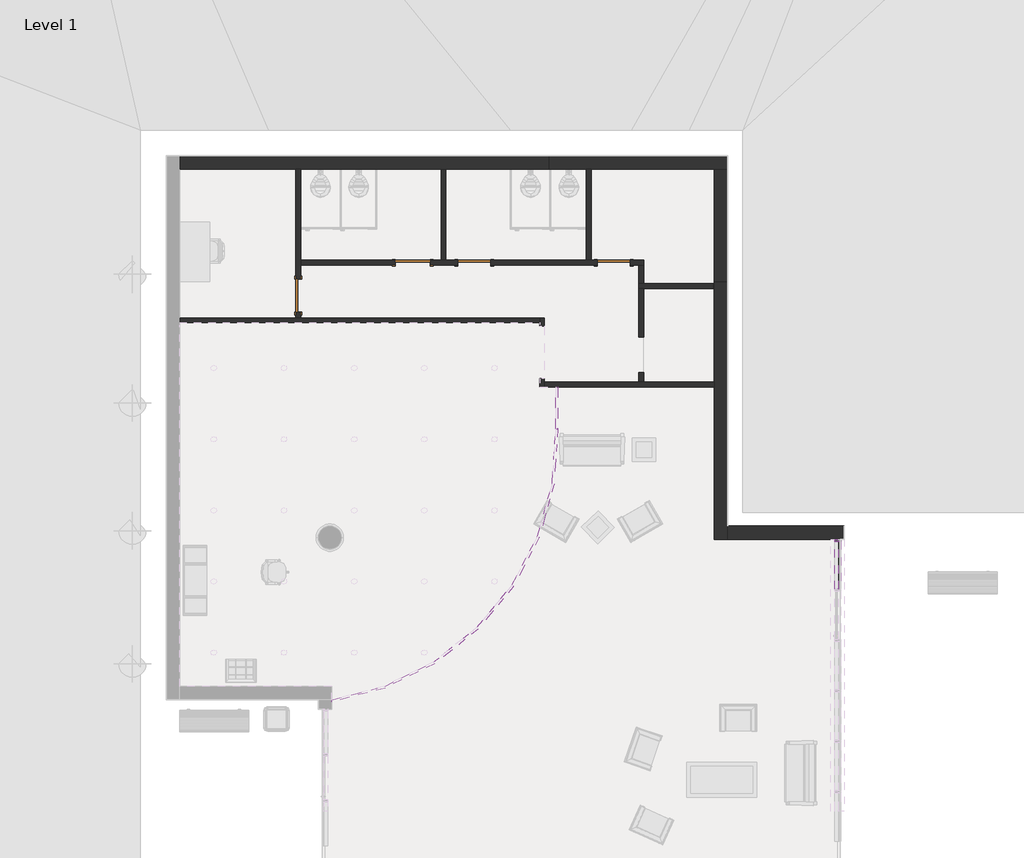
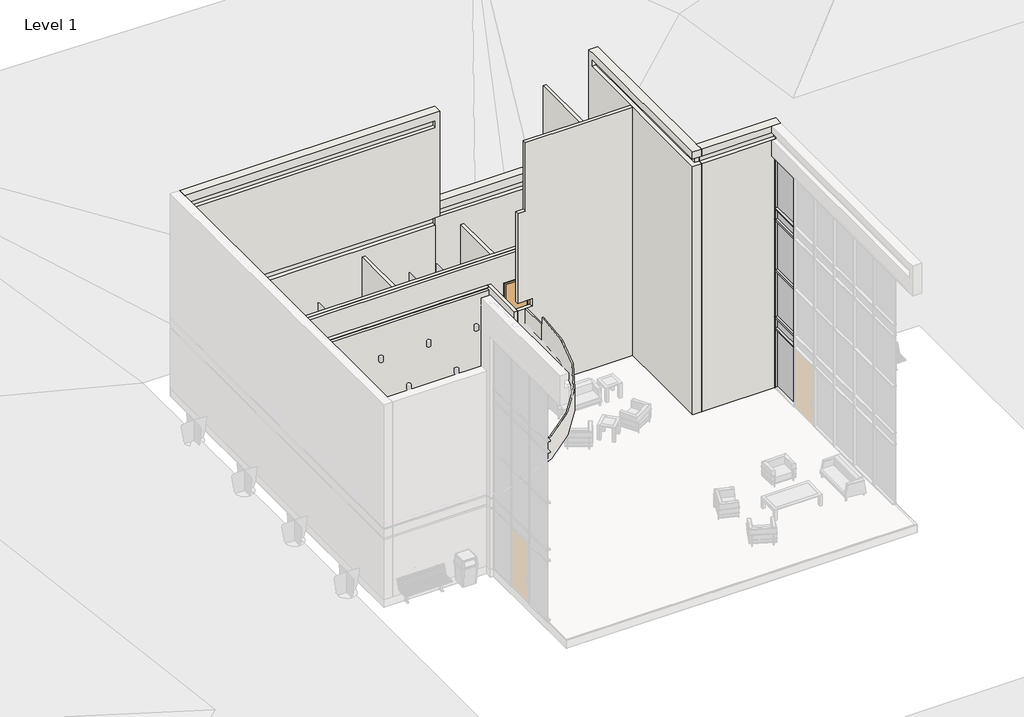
# One storey, part 5 of 6: 17 walls, 12 members, 6 plates, 4 doors.
"""IFC4 building model written with IfcOpenShell, lengths in millimetres."""

from ifc_helpers import new_model, si_unit, frame, origin, place, context, project, spatial, polyline, circle_curve, outline, extrude, faceted_brep, transform, mapped, element, save
from ifc_brep_helpers import plane_surface, cylinder_surface, revolved_surface, advanced_brep
from components import m_single_flush_0860_x_2030mm_8480546f, m_single_flush_0920_x_2100_fc213812, rectangular_mullion_50_x_150mm_bd4d183d, rectangular_mullion_50_x_150mm_66ba6a4f, rectangular_mullion_50_x_150mm_4a8db126, rectangular_mullion_50_x_150mm_686aa266, rectangular_mullion_50_x_150mm_fd087c06, rectangular_mullion_50_x_150mm_116e1582, rectangular_mullion_50_x_150mm_f0eb3f16, system_panel_glazed_0d527a17, system_panel_glazed_0d1daa48, system_panel_glazed_b20b1453, system_panel_glazed_98e6f03d, system_panel_glazed_89aeea5a

model = new_model("IFC4")

# Units and contexts
model_context = context("Model", 3, world=origin())
ifc_project = project(units=[si_unit("LENGTHUNIT", "METRE", prefix="MILLI")], contexts=[model_context])

# Site, building, storey
site = spatial("IfcSite", under=ifc_project)
building = spatial("IfcBuilding", under=site)
storey = spatial("IfcBuildingStorey", under=building, Name="Level 1", Elevation=45720.0)

# Doors
placement = place(None, origin())
m_single_flush_0860_x_2030mm_shape = m_single_flush_0860_x_2030mm_8480546f(model_context)
element("IfcDoor", 1, ObjectType="M_Single-Flush : 0860 x 2030mm", at=placement, inside=storey, context=model_context, shape_type="MappedRepresentation", body=[
    mapped(m_single_flush_0860_x_2030mm_shape, transform((-2602.4563072, 8316.5251138, 45720.0), x_axis=(-1.0, 0.0, 0.0), y_axis=(0.0, -1.0, 0.0), z_axis=(0.0, 0.0, 1.0))),
])
element("IfcDoor", 2, ObjectType="M_Single-Flush : 0860 x 2030mm", at=placement, inside=storey, context=model_context, shape_type="MappedRepresentation", body=[
    mapped(m_single_flush_0860_x_2030mm_shape, transform((-6234.6563072, 8316.5251138, 45720.0), x_axis=(-1.0, 0.0, 0.0), y_axis=(0.0, -1.0, 0.0), z_axis=(0.0, 0.0, 1.0))),
])
element("IfcDoor", 3, ObjectType="M_Single-Flush : 0860 x 2030mm", at=placement, inside=storey, context=model_context, shape_type="MappedRepresentation", body=[
    mapped(m_single_flush_0860_x_2030mm_shape, transform((-10819.3563072, 7465.6251138, 45720.0), x_axis=(0.0, -1.0, 0.0), y_axis=(1.0, 0.0, 0.0), z_axis=(0.0, 0.0, 1.0))),
])
m_single_flush_0920_x_2100_shape = m_single_flush_0920_x_2100_fc213812(model_context)
element("IfcDoor", 4, ObjectType="M_Single-Flush : 0920 x 2100", at=placement, inside=storey, context=model_context, shape_type="MappedRepresentation", body=[
    mapped(m_single_flush_0920_x_2100_shape, transform((-7834.8563072, 8316.5251138, 45720.0), x_axis=(1.0, 0.0, 0.0), y_axis=(0.0, 1.0, 0.0), z_axis=(0.0, 0.0, 1.0))),
])

# Members
rectangular_mullion_50_x_150mm_shape = rectangular_mullion_50_x_150mm_bd4d183d(model_context)
element("IfcMember", 5, ObjectType="Rectangular Mullion : 50 x 150mm", at=placement, inside=storey, context=model_context, shape_type="MappedRepresentation", body=[
    mapped(rectangular_mullion_50_x_150mm_shape, transform((3237.9561928, 1049.5515027, 55168.8), x_axis=(0.0, 0.0, 1.0), y_axis=(1.0, 0.0, 0.0), z_axis=(0.0, 1.0, 0.0))),
])
rectangular_mullion_50_x_150mm_2_shape = rectangular_mullion_50_x_150mm_66ba6a4f(model_context)
element("IfcMember", 6, ObjectType="Rectangular Mullion : 50 x 150mm", at=placement, inside=storey, context=model_context, shape_type="MappedRepresentation", body=[
    mapped(rectangular_mullion_50_x_150mm_2_shape, transform((3237.9561928, 1049.5515027, 48158.4), x_axis=(0.0, 0.0, 1.0), y_axis=(1.0, 0.0, 0.0), z_axis=(0.0, 1.0, 0.0))),
])
element("IfcMember", 7, ObjectType="Rectangular Mullion : 50 x 150mm", at=placement, inside=storey, context=model_context, shape_type="MappedRepresentation", body=[
    mapped(rectangular_mullion_50_x_150mm_2_shape, transform((3237.9561928, 1049.5515027, 50520.0), x_axis=(0.0, 0.0, 1.0), y_axis=(1.0, 0.0, 0.0), z_axis=(0.0, 1.0, 0.0))),
])
element("IfcMember", 8, ObjectType="Rectangular Mullion : 50 x 150mm", at=placement, inside=storey, context=model_context, shape_type="MappedRepresentation", body=[
    mapped(rectangular_mullion_50_x_150mm_2_shape, transform((3237.9561928, 1049.5515027, 53035.2), x_axis=(0.0, 0.0, 1.0), y_axis=(1.0, 0.0, 0.0), z_axis=(0.0, 1.0, 0.0))),
])
element("IfcMember", 9, ObjectType="Rectangular Mullion : 50 x 150mm", at=placement, inside=storey, context=model_context, shape_type="MappedRepresentation", body=[
    mapped(rectangular_mullion_50_x_150mm_2_shape, transform((3237.9561928, 1049.5515027, 52578.0), x_axis=(0.0, 0.0, 1.0), y_axis=(1.0, 0.0, 0.0), z_axis=(0.0, 1.0, 0.0))),
])
element("IfcMember", 10, ObjectType="Rectangular Mullion : 50 x 150mm", at=placement, inside=storey, context=model_context, shape_type="MappedRepresentation", body=[
    mapped(rectangular_mullion_50_x_150mm_2_shape, transform((3237.9561928, 1049.5515027, 48615.6), x_axis=(0.0, 0.0, 1.0), y_axis=(1.0, 0.0, 0.0), z_axis=(0.0, 1.0, 0.0))),
])
rectangular_mullion_50_x_150mm_3_shape = rectangular_mullion_50_x_150mm_4a8db126(model_context)
element("IfcMember", 11, ObjectType="Rectangular Mullion : 50 x 150mm", at=placement, inside=storey, context=model_context, shape_type="MappedRepresentation", body=[
    mapped(rectangular_mullion_50_x_150mm_3_shape, transform((3237.9561928, 1099.5515027, 45720.0), x_axis=(0.0, 1.0, 0.0), y_axis=(1.0, 0.0, 0.0), z_axis=(0.0, 0.0, -1.0))),
])
rectangular_mullion_50_x_150mm_4_shape = rectangular_mullion_50_x_150mm_686aa266(model_context)
element("IfcMember", 12, ObjectType="Rectangular Mullion : 50 x 150mm", at=placement, inside=storey, context=model_context, shape_type="MappedRepresentation", body=[
    mapped(rectangular_mullion_50_x_150mm_4_shape, transform((3237.9561928, 1099.5515027, 48158.4), x_axis=(0.0, 1.0, 0.0), y_axis=(1.0, 0.0, 0.0), z_axis=(0.0, 0.0, -1.0))),
])
element("IfcMember", 13, ObjectType="Rectangular Mullion : 50 x 150mm", at=placement, inside=storey, context=model_context, shape_type="MappedRepresentation", body=[
    mapped(rectangular_mullion_50_x_150mm_4_shape, transform((3237.9561928, 1099.5515027, 52578.0), x_axis=(0.0, 1.0, 0.0), y_axis=(1.0, 0.0, 0.0), z_axis=(0.0, 0.0, -1.0))),
])
rectangular_mullion_50_x_150mm_5_shape = rectangular_mullion_50_x_150mm_fd087c06(model_context)
element("IfcMember", 14, ObjectType="Rectangular Mullion : 50 x 150mm", at=placement, inside=storey, context=model_context, shape_type="MappedRepresentation", body=[
    mapped(rectangular_mullion_50_x_150mm_5_shape, transform((3237.9561928, 1099.5515027, 50520.0), x_axis=(0.0, 1.0, 0.0), y_axis=(1.0, 0.0, 0.0), z_axis=(0.0, 0.0, -1.0))),
])
rectangular_mullion_50_x_150mm_6_shape = rectangular_mullion_50_x_150mm_116e1582(model_context)
element("IfcMember", 15, ObjectType="Rectangular Mullion : 50 x 150mm", at=placement, inside=storey, context=model_context, shape_type="MappedRepresentation", body=[
    mapped(rectangular_mullion_50_x_150mm_6_shape, transform((3237.9561928, 1099.5515027, 53035.2), x_axis=(0.0, 1.0, 0.0), y_axis=(1.0, 0.0, 0.0), z_axis=(0.0, 0.0, -1.0))),
])
rectangular_mullion_50_x_150mm_7_shape = rectangular_mullion_50_x_150mm_f0eb3f16(model_context)
element("IfcMember", 16, ObjectType="Rectangular Mullion : 50 x 150mm", at=placement, inside=storey, context=model_context, shape_type="MappedRepresentation", body=[
    mapped(rectangular_mullion_50_x_150mm_7_shape, transform((3237.9561928, 1099.5515027, 48615.6), x_axis=(0.0, 1.0, 0.0), y_axis=(1.0, 0.0, 0.0), z_axis=(0.0, 0.0, -1.0))),
])

# Plates
system_panel_glazed_shape = system_panel_glazed_0d527a17(model_context)
element("IfcPlate", 17, ObjectType="System Panel : Glazed", at=placement, inside=storey, context=model_context, shape_type="MappedRepresentation", body=[
    mapped(system_panel_glazed_shape, transform((3237.9561928, 429.2737249, 45770.0), x_axis=(0.0, 1.0, 0.0), y_axis=(-1.0, 0.0, 0.0), z_axis=(0.0, 0.0, 1.0))),
])
system_panel_glazed_2_shape = system_panel_glazed_0d1daa48(model_context)
element("IfcPlate", 18, ObjectType="System Panel : Glazed", at=placement, inside=storey, context=model_context, shape_type="MappedRepresentation", body=[
    mapped(system_panel_glazed_2_shape, transform((3237.9561928, 429.2737249, 48183.4), x_axis=(0.0, 1.0, 0.0), y_axis=(-1.0, 0.0, 0.0), z_axis=(0.0, 0.0, 1.0))),
])
element("IfcPlate", 19, ObjectType="System Panel : Glazed", at=placement, inside=storey, context=model_context, shape_type="MappedRepresentation", body=[
    mapped(system_panel_glazed_2_shape, transform((3237.9561928, 429.2737249, 52603.0), x_axis=(0.0, 1.0, 0.0), y_axis=(-1.0, 0.0, 0.0), z_axis=(0.0, 0.0, 1.0))),
])
system_panel_glazed_3_shape = system_panel_glazed_b20b1453(model_context)
element("IfcPlate", 20, ObjectType="System Panel : Glazed", at=placement, inside=storey, context=model_context, shape_type="MappedRepresentation", body=[
    mapped(system_panel_glazed_3_shape, transform((3237.9561928, 429.2737249, 50545.0), x_axis=(0.0, 1.0, 0.0), y_axis=(-1.0, 0.0, 0.0), z_axis=(0.0, 0.0, 1.0))),
])
system_panel_glazed_4_shape = system_panel_glazed_98e6f03d(model_context)
element("IfcPlate", 21, ObjectType="System Panel : Glazed", at=placement, inside=storey, context=model_context, shape_type="MappedRepresentation", body=[
    mapped(system_panel_glazed_4_shape, transform((3237.9561928, 429.2737249, 53060.2), x_axis=(0.0, 1.0, 0.0), y_axis=(-1.0, 0.0, 0.0), z_axis=(0.0, 0.0, 1.0))),
])
system_panel_glazed_5_shape = system_panel_glazed_89aeea5a(model_context)
element("IfcPlate", 22, ObjectType="System Panel : Glazed", at=placement, inside=storey, context=model_context, shape_type="MappedRepresentation", body=[
    mapped(system_panel_glazed_5_shape, transform((3237.9561928, 429.2737249, 48640.6), x_axis=(0.0, 1.0, 0.0), y_axis=(-1.0, 0.0, 0.0), z_axis=(0.0, 0.0, 1.0))),
])

# Walls
element("IfcWall", 23, ObjectType="Soffit - 13mm GWB & Metal Stud", at=placement, inside=storey, context=model_context, shape_type="AdvancedBrep", body=[
    advanced_brep(
    [(-9951.8313072, -3082.8723614, 49377.6), (-9951.8313072, -3134.4377572, 49377.6), (-4058.4805054, 3960.4251138, 49377.6), (-4109.5153553, 3960.4251138, 49377.6), (-9944.2046852, -3081.7248862, 49377.6), (-4059.5813072, 3988.7313839, 48463.2), (-9951.8313072, -3134.4377572, 48463.2), (-9951.8313072, -3082.8723614, 48463.2), (-4110.5813072, 3987.6859101, 48463.2), (-4059.5813072, 3988.7313839, 49077.6), (-4058.4805054, 3960.4251138, 49077.6), (-4109.5153553, 3960.4251138, 49077.6), (-4110.5813072, 3987.6859101, 49077.6)],
    [
        (0, 1),
        (1, 2, circle_curve(frame((-10969.3383655, 3705.8434908, 49377.6), z_axis=(0.0, 0.0, 1.0), x_axis=(1.0, 0.0, 0.0)), 6915.545399)),
        (2, 3),
        (3, 4, circle_curve(frame((-10969.3383655, 3705.8434908, 49377.6), z_axis=(0.0, 0.0, -1.0), x_axis=(1.0, 0.0, 0.0)), 6864.545399)),
        (4, 0, circle_curve(frame((-10969.3383655, 3705.8434908, 49377.6), z_axis=(0.0, 0.0, -1.0), x_axis=(1.0, 0.0, 0.0)), 6864.545399)),
        (5, 6, circle_curve(frame((-10969.3383655, 3705.8434908, 48463.2), z_axis=(0.0, 0.0, -1.0), x_axis=(1.0, 0.0, 0.0)), 6915.545399)),
        (6, 7),
        (7, 8, circle_curve(frame((-10969.3383655, 3705.8434908, 48463.2), z_axis=(0.0, 0.0, 1.0), x_axis=(1.0, 0.0, 0.0)), 6864.545399)),
        (8, 5),
        (5, 9),
        (9, 10, circle_curve(frame((-10969.3383655, 3705.8434908, 49077.6), z_axis=(0.0, 0.0, -1.0), x_axis=(1.0, 0.0, 0.0)), 6915.545399)),
        (10, 2),
        (1, 6),
        (7, 0),
        (3, 11),
        (11, 12, circle_curve(frame((-10969.3383655, 3705.8434908, 49077.6), z_axis=(0.0, 0.0, 1.0), x_axis=(1.0, 0.0, 0.0)), 6864.545399)),
        (12, 8),
        (11, 10),
        (9, 12),
    ],
    [
        plane_surface(frame((-4053.7929666, 3705.8434908, 49377.6), z_axis=(0.0, 0.0, 1.0), x_axis=(0.0, 1.0, 0.0))),
        plane_surface(frame((-4053.7929666, 3705.8434908, 48463.2), z_axis=(0.0, 0.0, -1.0), x_axis=(0.0, -1.0, 0.0))),
        cylinder_surface(frame((-10969.3383655, 3705.8434908, 48463.2), z_axis=(0.0, 0.0, 1.0), x_axis=(1.0, 0.0, 0.0)), 6915.545399),
        revolved_surface(polyline([(-4104.7929665, 3705.8434908, 48463.2), (-4104.7929665, 3705.8434908, 49377.6)]), (-10969.3383655, 3705.8434908, 48463.2), (0.0, 0.0, -1.0)),
        plane_surface(frame((-9951.8313072, -8228.3998862, 45720.0), z_axis=(-1.0, 0.0, 0.0), x_axis=(0.0, 1.0, 0.0))),
        plane_surface(frame((-14079.2313072, 10922.3501138, 49077.6), z_axis=(0.0, 0.0, 1.0), x_axis=(1.0, 0.0, 0.0))),
        plane_surface(frame((-3847.0563072, 3960.4251138, 49077.6), z_axis=(0.0, 1.0, 0.0), x_axis=(0.0, 0.0, 1.0))),
        plane_surface(frame((-4059.5813072, 3988.7313839, 45720.0), z_axis=(-0.02049518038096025, 0.9997899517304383, 0.0), x_axis=(-0.9997899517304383, -0.02049518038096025, 0.0))),
    ],
    [
        (0, [[1, 2, 3, 4, 5]]),
        (1, [[6, 7, 8, 9]]),
        (2, [[-6, 10, 11, 12, -2, 13]]),
        (3, [[-8, 14, -5, -4, 15, 16, 17]]),
        (4, [[-1, -14, -7, -13]]),
        (5, [[18, -11, 19, -16]]),
        (6, [[-18, -15, -3, -12]]),
        (7, [[-9, -17, -19, -10]]),
    ],
),
])
element("IfcWall", 24, ObjectType="Soffit - 13mm GWB & Metal Stud", at=placement, inside=storey, context=model_context, shape_type="SweptSolid", body=[
    extrude(outline(polyline([(-4110.5813072, 3987.6859101), (-4110.5813072, 5078.0001138), (-4059.5813072, 5078.0001138), (-4059.5813072, 3988.7313839), (-4110.5813072, 3987.6859101)])), frame((0.0, 0.0, 48463.2), z_axis=(0.0, 0.0, 1.0), x_axis=(1.0, 0.0, 0.0)), (0.0, 0.0, 1.0), 614.4),
])
element("IfcWall", 25, ObjectType="Exterior - Brick on Mtl. Stud w/ Soldier Course", at=placement, inside=storey, context=model_context, shape_type="Brep", body=[
    faceted_brep([(-4110.1063072, 10757.3501138, 53644.8), (-4463.0063072, 10757.3501138, 53644.8), (-13914.2313072, 10757.3501138, 53644.8), (-13914.2313072, 10757.3501138, 53335.2), (-4463.0063072, 10757.3501138, 53335.2), (-4280.7679666, 10757.3501138, 53335.2), (-4280.7679666, 10757.3501138, 53035.2), (-4463.0063072, 10757.3501138, 53035.2), (-13914.2313072, 10757.3501138, 53035.2), (-13914.2313072, 10757.3501138, 49377.6), (-4463.0063072, 10757.3501138, 49377.6), (-4286.5563072, 10757.3501138, 49377.6), (-4110.1063072, 10757.3501138, 49377.6), (-4110.1063072, 10757.3501138, 49677.6), (-4110.1063072, 10757.3501138, 49987.2), (-13914.2313072, 10757.3501138, 45720.0), (-10882.8813072, 10757.3501138, 45720.0), (-10755.8313072, 10757.3501138, 45720.0), (-7098.2813072, 10757.3501138, 45720.0), (-6971.2313072, 10757.3501138, 45720.0), (-4286.5563072, 10757.3501138, 45720.0), (-4286.5563072, 10757.3501138, 49077.6), (-10755.8313072, 10757.3501138, 49077.6), (-10882.8813072, 10757.3501138, 49077.6), (-13914.2313072, 10757.3501138, 49077.6), (-4286.5563072, 11107.3501138, 45720.0), (-13914.2313072, 11107.3501138, 45720.0), (-13914.2313072, 11107.3501138, 48170.0), (-4286.5563072, 11107.3501138, 48170.0), (-13914.2313072, 11107.3501138, 53644.8), (-4110.1063072, 11107.3501138, 53644.8), (-4110.1063072, 11107.3501138, 49987.2), (-4110.1063072, 11107.3501138, 49377.6), (-4286.5563072, 11107.3501138, 49377.6), (-4286.5563072, 11107.3501138, 48633.5), (-13914.2313072, 11107.3501138, 48633.5), (-13914.2313072, 11107.3501138, 48570.0), (-4286.5563072, 11107.3501138, 48570.0), (-4286.5563072, 11107.3501138, 48233.5), (-13914.2313072, 11107.3501138, 48233.5), (-13914.2313072, 11056.5501138, 48633.5), (-13914.2313072, 11056.5501138, 48570.0), (-13914.2313072, 11056.5501138, 48233.5), (-13914.2313072, 11056.5501138, 48170.0), (-13914.2313072, 10922.3501138, 49077.6), (-13914.2313072, 10922.3501138, 49377.6), (-13914.2313072, 10922.3501138, 53035.2), (-13914.2313072, 10922.3501138, 53335.2), (-4286.5563072, 10922.3501138, 49077.6), (-4286.5563072, 10922.3501138, 49377.6), (-4280.7679666, 10922.3501138, 53035.2), (-4280.7679666, 10922.3501138, 53335.2), (-4286.5563072, 11056.5501138, 48170.0), (-4286.5563072, 11056.5501138, 48233.5), (-4286.5563072, 11056.5501138, 48570.0), (-4286.5563072, 11056.5501138, 48633.5), (-4110.1063072, 10920.0251138, 49377.6)], [[[0, 1, 2, 3, 4, 5, 6, 7, 8, 9, 10, 11, 12, 13, 14]], [[15, 16, 17, 18, 19, 20, 21, 22, 23, 24]], [[25, 26, 27, 28]], [[29, 30, 31, 32, 33, 34, 35]], [[36, 37, 38, 39]], [[20, 19, 18, 17, 16, 15, 26, 25]], [[2, 1, 0, 30, 29]], [[2, 29, 35, 40, 41, 36, 39, 42, 43, 27, 26, 15, 24, 44, 45, 9, 8, 46, 47, 3]], [[45, 44, 48, 49]], [[50, 46, 8, 7, 6]], [[47, 51, 5, 4, 3]], [[51, 47, 46, 50]], [[51, 50, 6, 5]], [[20, 25, 28, 52, 53, 38, 37, 54, 55, 34, 33, 49, 48, 21]], [[33, 32, 56, 12, 11, 10, 9, 45, 49]], [[24, 23, 22, 21, 48, 44]], [[30, 0, 14, 13, 12, 56, 32, 31]], [[55, 40, 35, 34]], [[41, 54, 37, 36]], [[40, 55, 54, 41]], [[53, 42, 39, 38]], [[43, 52, 28, 27]], [[42, 53, 52, 43]]]),
])
element("IfcWall", 26, ObjectType="Exterior - Brick on Mtl. Stud w/ Soldier Course", at=placement, inside=storey, context=model_context, shape_type="Brep", body=[
    faceted_brep([(16.1686928, 7819.4001138, 45720.0), (16.1686928, 5205.0501138, 45720.0), (16.1686928, 5078.0001138, 45720.0), (16.1686928, 1100.7640027, 45720.0), (16.1686928, 1100.7640027, 55816.5), (16.1686928, 5078.0001138, 55816.5), (16.1686928, 5205.0501138, 55816.5), (16.1686928, 7642.9501138, 55816.5), (16.1686928, 7811.2501138, 55816.5), (16.1686928, 7811.2501138, 56116.5), (16.1686928, 7642.9501138, 56116.5), (16.1686928, 1100.7640027, 56116.5), (16.1686928, 1100.7640027, 56388.0), (16.1686928, 7642.9501138, 56388.0), (16.1686928, 7995.8501138, 56388.0), (16.1686928, 7995.8501138, 49987.2), (16.1686928, 7995.8501138, 49377.6), (16.1686928, 7819.4001138, 49377.6), (366.1686928, 1100.7640027, 45720.0), (366.1686928, 1450.7640027, 45720.0), (366.1686928, 7819.4001138, 45720.0), (366.1686928, 7819.4001138, 48170.0), (366.1686928, 1450.7640027, 48170.0), (366.1686928, 1399.9640027, 48170.0), (366.1686928, 1399.9640027, 48233.5), (366.1686928, 1450.7640027, 48233.5), (366.1686928, 7819.4001138, 48233.5), (366.1686928, 7819.4001138, 48570.0), (366.1686928, 1450.7640027, 48570.0), (366.1686928, 1399.9640027, 48570.0), (366.1686928, 1399.9640027, 48633.5), (366.1686928, 1450.7640027, 48633.5), (366.1686928, 7819.4001138, 48633.5), (366.1686928, 7819.4001138, 49377.6), (366.1686928, 7995.8501138, 49377.6), (366.1686928, 7995.8501138, 49987.2), (366.1686928, 7995.8501138, 56388.0), (366.1686928, 1450.7640027, 56388.0), (366.1686928, 1100.7640027, 56388.0), (366.1686928, 1100.7640027, 56116.5), (366.1686928, 1265.7640027, 56116.5), (366.1686928, 1265.7640027, 55816.5), (366.1686928, 1100.7640027, 55816.5), (181.1686928, 1265.7640027, 56116.5), (181.1686928, 1265.7640027, 55816.5), (181.1686928, 7811.2501138, 55816.5), (181.1686928, 7811.2501138, 56116.5), (315.3686928, 7819.4001138, 48633.5), (315.3686928, 7819.4001138, 48570.0), (315.3686928, 7819.4001138, 48233.5), (315.3686928, 7819.4001138, 48170.0), (315.3686928, 1399.9640027, 48633.5), (315.3686928, 1399.9640027, 48570.0), (315.3686928, 1399.9640027, 48233.5), (315.3686928, 1399.9640027, 48170.0)], [[[0, 1, 2, 3, 4, 5, 6, 7, 8, 9, 10, 11, 12, 13, 14, 15, 16, 17]], [[18, 19, 20, 21, 22, 23, 24, 25, 26, 27, 28, 29, 30, 31, 32, 33, 34, 35, 36, 37, 38, 39, 40, 41, 42]], [[3, 2, 1, 0, 20, 19, 18]], [[14, 13, 12, 38, 37, 36]], [[3, 18, 42, 4]], [[38, 12, 11, 39]], [[43, 44, 41, 40]], [[45, 44, 43, 46]], [[44, 45, 8, 7, 6, 5, 4, 42, 41]], [[46, 43, 40, 39, 11, 10, 9]], [[20, 0, 17, 33, 32, 47, 48, 27, 26, 49, 50, 21]], [[34, 33, 17, 16]], [[45, 46, 9, 8]], [[14, 36, 35, 34, 16, 15]], [[51, 52, 48, 47]], [[30, 51, 47, 32, 31]], [[48, 52, 29, 28, 27]], [[52, 51, 30, 29]], [[53, 54, 50, 49]], [[24, 53, 49, 26, 25]], [[50, 54, 23, 22, 21]], [[54, 53, 24, 23]]]),
])
element("IfcWall", 27, ObjectType="Exterior - Brick on Mtl. Stud w/ Soldier Course", at=placement, inside=storey, context=model_context, shape_type="Brep", body=[
    faceted_brep([(366.1686928, 1100.7640027, 45720.0), (3414.1686928, 1100.7640027, 45720.0), (3414.1686928, 1100.7640027, 55168.8), (3414.1686928, 1100.7640027, 56388.0), (3061.2686928, 1100.7640027, 56388.0), (366.1686928, 1100.7640027, 56388.0), (366.1686928, 1100.7640027, 56116.5), (3061.2686928, 1100.7640027, 56116.5), (3229.1686928, 1100.7640027, 56116.5), (3229.1686928, 1100.7640027, 55816.5), (3061.2686928, 1100.7640027, 55816.5), (366.1686928, 1100.7640027, 55816.5), (3414.1686928, 1450.7640027, 45720.0), (366.1686928, 1450.7640027, 45720.0), (366.1686928, 1450.7640027, 48170.0), (3414.1686928, 1450.7640027, 48170.0), (366.1686928, 1450.7640027, 56388.0), (3414.1686928, 1450.7640027, 56388.0), (3414.1686928, 1450.7640027, 48633.5), (366.1686928, 1450.7640027, 48633.5), (366.1686928, 1450.7640027, 48570.0), (3414.1686928, 1450.7640027, 48570.0), (3414.1686928, 1450.7640027, 48233.5), (366.1686928, 1450.7640027, 48233.5), (366.1686928, 1399.9640027, 48633.5), (366.1686928, 1399.9640027, 48570.0), (366.1686928, 1399.9640027, 48233.5), (366.1686928, 1399.9640027, 48170.0), (366.1686928, 1265.7640027, 55816.5), (366.1686928, 1265.7640027, 56116.5), (3414.1686928, 1399.9640027, 48170.0), (3414.1686928, 1399.9640027, 48233.5), (3414.1686928, 1399.9640027, 48570.0), (3414.1686928, 1399.9640027, 48633.5), (3229.1686928, 1265.7640027, 56116.5), (3229.1686928, 1265.7640027, 55816.5)], [[[0, 1, 2, 3, 4, 5, 6, 7, 8, 9, 10, 11]], [[12, 13, 14, 15]], [[16, 17, 18, 19]], [[20, 21, 22, 23]], [[1, 0, 13, 12]], [[5, 4, 3, 17, 16]], [[5, 16, 19, 24, 25, 20, 23, 26, 27, 14, 13, 0, 11, 28, 29, 6]], [[3, 2, 1, 12, 15, 30, 31, 22, 21, 32, 33, 18, 17]], [[34, 35, 9, 8]], [[35, 34, 29, 28]], [[9, 35, 28, 11, 10]], [[34, 8, 7, 6, 29]], [[33, 24, 19, 18]], [[25, 32, 21, 20]], [[24, 33, 32, 25]], [[31, 26, 23, 22]], [[27, 30, 15, 14]], [[26, 31, 30, 27]]]),
])
element("IfcWall", 28, ObjectType="Exterior - Brick on Mtl. Stud w/ Soldier Course", at=placement, inside=storey, context=model_context, shape_type="Brep", body=[
    faceted_brep([(16.1686928, 10757.3501138, 45720.0), (16.1686928, 7819.4001138, 45720.0), (16.1686928, 7819.4001138, 49377.6), (16.1686928, 7995.8501138, 49377.6), (16.1686928, 7995.8501138, 49987.2), (16.1686928, 10757.3501138, 49987.2), (366.1686928, 7819.4001138, 45720.0), (366.1686928, 10757.3501138, 45720.0), (366.1686928, 10757.3501138, 48170.0), (366.1686928, 7819.4001138, 48170.0), (366.1686928, 10757.3501138, 49987.2), (366.1686928, 7995.8501138, 49987.2), (366.1686928, 7995.8501138, 49377.6), (366.1686928, 7819.4001138, 49377.6), (366.1686928, 7819.4001138, 48633.5), (366.1686928, 10757.3501138, 48633.5), (366.1686928, 10757.3501138, 48570.0), (366.1686928, 7819.4001138, 48570.0), (366.1686928, 7819.4001138, 48233.5), (366.1686928, 10757.3501138, 48233.5), (315.3686928, 10757.3501138, 48633.5), (315.3686928, 10757.3501138, 48570.0), (315.3686928, 10757.3501138, 48233.5), (315.3686928, 10757.3501138, 48170.0), (315.3686928, 7819.4001138, 48633.5), (315.3686928, 7819.4001138, 48570.0), (315.3686928, 7819.4001138, 48233.5), (315.3686928, 7819.4001138, 48170.0)], [[[0, 1, 2, 3, 4, 5]], [[6, 7, 8, 9]], [[10, 11, 12, 13, 14, 15]], [[16, 17, 18, 19]], [[1, 0, 7, 6]], [[5, 4, 11, 10]], [[0, 5, 10, 15, 20, 21, 16, 19, 22, 23, 8, 7]], [[24, 20, 15, 14]], [[21, 25, 17, 16]], [[20, 24, 25, 21]], [[26, 22, 19, 18]], [[23, 27, 9, 8]], [[22, 26, 27, 23]], [[1, 6, 9, 27, 26, 18, 17, 25, 24, 14, 13, 2]], [[3, 2, 13, 12]], [[4, 3, 12, 11]]]),
])
element("IfcWall", 29, ObjectType="Exterior - Brick on Mtl. Stud w/ Soldier Course", at=placement, inside=storey, context=model_context, shape_type="Brep", body=[
    faceted_brep([(-4286.5563072, 10757.3501138, 45720.0), (-3313.6813072, 10757.3501138, 45720.0), (-3186.6313072, 10757.3501138, 45720.0), (16.1686928, 10757.3501138, 45720.0), (366.1686928, 10757.3501138, 45720.0), (366.1686928, 10757.3501138, 48170.0), (315.3686928, 10757.3501138, 48170.0), (315.3686928, 10757.3501138, 48233.5), (366.1686928, 10757.3501138, 48233.5), (366.1686928, 10757.3501138, 48570.0), (315.3686928, 10757.3501138, 48570.0), (315.3686928, 10757.3501138, 48633.5), (366.1686928, 10757.3501138, 48633.5), (366.1686928, 10757.3501138, 49987.2), (16.1686928, 10757.3501138, 49987.2), (-4110.1063072, 10757.3501138, 49987.2), (-4110.1063072, 10757.3501138, 49677.6), (178.8436928, 10757.3501138, 49677.6), (178.8436928, 10757.3501138, 49377.6), (-4110.1063072, 10757.3501138, 49377.6), (-4286.5563072, 10757.3501138, 49377.6), (-4286.5563072, 10757.3501138, 49077.6), (366.1686928, 11107.3501138, 45720.0), (-4286.5563072, 11107.3501138, 45720.0), (-4286.5563072, 11107.3501138, 48170.0), (366.1686928, 11107.3501138, 48170.0), (-4110.1063072, 11107.3501138, 49987.2), (366.1686928, 11107.3501138, 49987.2), (366.1686928, 11107.3501138, 48633.5), (-4286.5563072, 11107.3501138, 48633.5), (-4286.5563072, 11107.3501138, 49377.6), (-4110.1063072, 11107.3501138, 49377.6), (-4286.5563072, 11107.3501138, 48570.0), (366.1686928, 11107.3501138, 48570.0), (366.1686928, 11107.3501138, 48233.5), (-4286.5563072, 11107.3501138, 48233.5), (178.8436928, 10920.0251138, 49677.6), (-4110.1063072, 10920.0251138, 49677.6), (178.8436928, 10920.0251138, 49377.6), (-4110.1063072, 10920.0251138, 49377.6), (315.3686928, 11056.5501138, 48633.5), (315.3686928, 11056.5501138, 48570.0), (-4286.5563072, 11056.5501138, 48570.0), (-4286.5563072, 11056.5501138, 48633.5), (315.3686928, 11056.5501138, 48233.5), (315.3686928, 11056.5501138, 48170.0), (-4286.5563072, 11056.5501138, 48170.0), (-4286.5563072, 11056.5501138, 48233.5), (-4286.5563072, 10922.3501138, 49377.6)], [[[0, 1, 2, 3, 4, 5, 6, 7, 8, 9, 10, 11, 12, 13, 14, 15, 16, 17, 18, 19, 20, 21]], [[22, 23, 24, 25]], [[26, 27, 28, 29, 30, 31]], [[32, 33, 34, 35]], [[4, 3, 2, 1, 0, 23, 22]], [[15, 14, 13, 27, 26]], [[4, 22, 25, 5]], [[27, 13, 12, 28]], [[33, 9, 8, 34]], [[36, 17, 16, 37]], [[38, 36, 37, 39]], [[36, 38, 18, 17]], [[40, 41, 42, 43]], [[11, 40, 43, 29, 28, 12]], [[42, 41, 10, 9, 33, 32]], [[41, 40, 11, 10]], [[44, 45, 46, 47]], [[7, 44, 47, 35, 34, 8]], [[46, 45, 6, 5, 25, 24]], [[45, 44, 7, 6]], [[23, 0, 21, 20, 48, 30, 29, 43, 42, 32, 35, 47, 46, 24]], [[18, 38, 39, 31, 30, 48, 20, 19]], [[15, 26, 31, 39, 37, 16]]]),
])
element("IfcWall", 30, ObjectType="Interior - 127mm Partition (2-hr)", at=placement, inside=storey, context=model_context, shape_type="Brep", body=[
    faceted_brep([(-1942.0813072, 7643.4001138, 45720.0), (-1942.0813072, 6373.4251138, 45720.0), (-1942.0813072, 6373.4251138, 48158.4), (-1942.0813072, 5459.0251138, 48158.4), (-1942.0813072, 5459.0251138, 45720.0), (-1942.0813072, 5205.0501138, 45720.0), (-1942.0813072, 5205.0501138, 49077.6), (-1942.0813072, 5205.0501138, 49377.6), (-1942.0813072, 5205.0501138, 55816.5), (-1942.0813072, 7642.9501138, 55816.5), (-1942.0813072, 7642.9501138, 49377.6), (-1942.0813072, 7643.4001138, 49377.6), (-1942.0813072, 7643.4001138, 49077.6), (-1942.0813072, 6373.4251138, 49077.6), (-1942.0813072, 6373.4251138, 49377.6), (-1942.0813072, 6373.4251138, 51816.0), (-1942.0813072, 5459.0251138, 51816.0), (-1942.0813072, 5459.0251138, 49377.6), (-1942.0813072, 5459.0251138, 49077.6), (-1815.0313072, 6373.4251138, 45720.0), (-1815.0313072, 7643.4001138, 45720.0), (-1815.0313072, 7643.4001138, 49377.6), (-1815.0313072, 7642.9501138, 49377.6), (-1815.0313072, 7642.9501138, 55816.5), (-1815.0313072, 5205.0501138, 55816.5), (-1815.0313072, 5205.0501138, 45720.0), (-1815.0313072, 5459.0251138, 45720.0), (-1815.0313072, 5459.0251138, 48158.4), (-1815.0313072, 6373.4251138, 48158.4), (-1815.0313072, 5459.0251138, 49077.6), (-1815.0313072, 5459.0251138, 49377.6), (-1815.0313072, 5459.0251138, 51816.0), (-1815.0313072, 6373.4251138, 51816.0), (-1815.0313072, 6373.4251138, 49377.6), (-1815.0313072, 6373.4251138, 49077.6)], [[[0, 1, 2, 3, 4, 5, 6, 7, 8, 9, 10, 11, 12], [13, 14, 15, 16, 17, 18]], [[19, 20, 21, 22, 23, 24, 25, 26, 27, 28], [29, 30, 31, 32, 33, 34]], [[1, 0, 20, 19]], [[5, 4, 26, 25]], [[15, 32, 31, 16]], [[32, 15, 14, 13, 34, 33]], [[16, 31, 30, 29, 18, 17]], [[2, 28, 27, 3]], [[28, 2, 1, 19]], [[3, 27, 26, 4]], [[5, 25, 24, 8, 7, 6]], [[9, 8, 24, 23]], [[34, 13, 18, 29]], [[22, 21, 11, 10]], [[20, 0, 12, 11, 21]], [[9, 23, 22, 10]]]),
])
element("IfcWall", 31, ObjectType="Interior - 127mm Partition (2-hr)", at=placement, inside=storey, context=model_context, shape_type="Brep", body=[
    faceted_brep([(-4404.7653553, 5078.0001138, 45720.0), (16.1686928, 5078.0001138, 45720.0), (16.1686928, 5078.0001138, 55168.8), (16.1686928, 5078.0001138, 55225.8), (16.1686928, 5078.0001138, 55816.5), (-4110.1063072, 5078.0001138, 55816.5), (-4110.1063072, 5078.0001138, 55225.8), (-4110.1063072, 5078.0001138, 55168.8), (-4110.1063072, 5078.0001138, 53035.2), (-4110.5813072, 5078.0001138, 53035.2), (-4161.5813072, 5078.0001138, 53035.2), (-4404.7653553, 5078.0001138, 53035.2), (-4404.7653553, 5078.0001138, 49377.6), (-3847.0563072, 5078.0001138, 49377.6), (-3847.0563072, 5078.0001138, 49077.6), (-4059.5813072, 5078.0001138, 49077.6), (-4110.5813072, 5078.0001138, 49077.6), (-4404.7653553, 5078.0001138, 49077.6), (16.1686928, 5205.0501138, 45720.0), (-1815.0313072, 5205.0501138, 45720.0), (-1942.0813072, 5205.0501138, 45720.0), (-4404.7653553, 5205.0501138, 45720.0), (-4404.7653553, 5205.0501138, 49077.6), (-3847.0563072, 5205.0501138, 49077.6), (-3847.0563072, 5205.0501138, 49377.6), (-4404.7653553, 5205.0501138, 49377.6), (-4404.7653553, 5205.0501138, 53035.2), (-4110.1063072, 5205.0501138, 53035.2), (-4110.1063072, 5205.0501138, 55816.5), (-1942.0813072, 5205.0501138, 55816.5), (-1815.0313072, 5205.0501138, 55816.5), (16.1686928, 5205.0501138, 55816.5)], [[[0, 1, 2, 3, 4, 5, 6, 7, 8, 9, 10, 11, 12, 13, 14, 15, 16, 17]], [[18, 19, 20, 21, 22, 23, 24, 25, 26, 27, 28, 29, 30, 31]], [[1, 0, 21, 20, 19, 18]], [[23, 22, 17, 16, 15, 14]], [[25, 24, 13, 12]], [[4, 31, 30, 29, 28, 5]], [[8, 27, 26, 11, 10, 9]], [[23, 14, 13, 24]], [[4, 3, 2, 1, 18, 31]], [[21, 0, 17, 22]], [[11, 26, 25, 12]], [[27, 8, 7, 6, 5, 28]]]),
])
element("IfcWall", 32, ObjectType="Interior - 127mm Partition (2-hr)", at=placement, inside=storey, context=model_context, shape_type="Brep", body=[
    faceted_brep([(-11.6563072, 7770.4501138, 45720.0), (-1815.0313072, 7770.4501138, 45720.0), (-1942.0813072, 7770.4501138, 45720.0), (-1942.0813072, 7770.4501138, 48768.0), (-1942.0813072, 7770.4501138, 49377.6), (-11.6563072, 7770.4501138, 49377.6), (-11.6563072, 7643.4001138, 45720.0), (-11.6563072, 7643.4001138, 49377.6), (-1815.0313072, 7643.4001138, 49377.6), (-1942.0813072, 7643.4001138, 49377.6), (-1942.0813072, 7643.4001138, 45720.0), (-1815.0313072, 7643.4001138, 45720.0)], [[[0, 1, 2, 3, 4, 5]], [[6, 7, 8, 9, 10, 11]], [[2, 1, 0, 6, 11, 10]], [[0, 5, 7, 6]], [[2, 10, 9, 4, 3]], [[5, 4, 9, 8, 7]]]),
])
element("IfcWall", 33, ObjectType="Interior - 127mm Partition (2-hr)", at=placement, inside=storey, context=model_context, shape_type="Brep", body=[
    faceted_brep([(-4531.8153553, 6881.4501138, 45720.0), (-10755.8313072, 6881.4501138, 45720.0), (-10882.8813072, 6881.4501138, 45720.0), (-13914.2313072, 6881.4501138, 45720.0), (-13914.2313072, 6881.4501138, 48945.8), (-4531.8153553, 6881.4501138, 48945.8), (-13914.2313072, 6754.4001138, 45720.0), (-4531.8153553, 6754.4001138, 45720.0), (-4531.8153553, 6754.4001138, 48945.8), (-13914.2313072, 6754.4001138, 48945.8)], [[[0, 1, 2, 3, 4, 5]], [[6, 7, 8, 9]], [[3, 2, 1, 0, 7, 6]], [[3, 6, 9, 4]], [[7, 0, 5, 8]], [[5, 4, 9, 8]]]),
    faceted_brep([(-13914.2313072, 6881.4501138, 49077.6), (-10882.8813072, 6881.4501138, 49077.6), (-10755.8313072, 6881.4501138, 49077.6), (-4531.8153553, 6881.4501138, 49077.6), (-4531.8153553, 6881.4501138, 49072.8), (-13914.2313072, 6881.4501138, 49072.8), (-4531.8153553, 6754.4001138, 49077.6), (-13914.2313072, 6754.4001138, 49077.6), (-13914.2313072, 6754.4001138, 49072.8), (-4531.8153553, 6754.4001138, 49072.8)], [[[0, 1, 2, 3, 4, 5]], [[6, 7, 8, 9]], [[7, 0, 5, 8]], [[3, 6, 9, 4]], [[3, 2, 1, 0, 7, 6]], [[5, 4, 9, 8]]]),
])
element("IfcWall", 34, ObjectType="Interior - 127mm Partition (2-hr)", at=placement, inside=storey, context=model_context, shape_type="Brep", body=[
    faceted_brep([(-4404.7653553, 6881.4501138, 45720.0), (-4404.7653553, 6881.4501138, 49077.6), (-4404.7653553, 5205.0501138, 49077.6), (-4404.7653553, 5078.0001138, 49077.6), (-4404.7653553, 5078.0001138, 48520.2), (-4404.7653553, 5078.0001138, 48463.2), (-4404.7653553, 5078.0001138, 45720.0), (-4404.7653553, 5205.0501138, 45720.0), (-4404.7653553, 5293.9251138, 45720.0), (-4404.7653553, 5293.9251138, 48158.4), (-4404.7653553, 6665.5251138, 48158.4), (-4404.7653553, 6665.5251138, 45720.0), (-4404.7653553, 5293.9251138, 48520.2), (-4404.7653553, 6665.5251138, 48520.2), (-4404.7653553, 6665.5251138, 48463.2), (-4404.7653553, 5293.9251138, 48463.2), (-4531.8153553, 6881.4501138, 49077.6), (-4531.8153553, 6881.4501138, 49072.8), (-4531.8153553, 6881.4501138, 48945.8), (-4531.8153553, 6881.4501138, 45720.0), (-4531.8153553, 6754.4001138, 45720.0), (-4531.8153553, 6665.5251138, 45720.0), (-4531.8153553, 6665.5251138, 48158.4), (-4531.8153553, 5293.9251138, 48158.4), (-4531.8153553, 5293.9251138, 45720.0), (-4531.8153553, 5078.0001138, 45720.0), (-4531.8153553, 5078.0001138, 48463.2), (-4531.8153553, 5078.0001138, 48520.2), (-4531.8153553, 5078.0001138, 49077.6), (-4531.8153553, 6754.4001138, 49077.6), (-4531.8153553, 6665.5251138, 48520.2), (-4531.8153553, 5293.9251138, 48520.2), (-4531.8153553, 5293.9251138, 48463.2), (-4531.8153553, 6665.5251138, 48463.2)], [[[0, 1, 2, 3, 4, 5, 6, 7, 8, 9, 10, 11], [12, 13, 14, 15]], [[16, 17, 18, 19, 20, 21, 22, 23, 24, 25, 26, 27, 28, 29], [30, 31, 32, 33]], [[19, 0, 11, 21, 20]], [[8, 7, 6, 25, 24]], [[1, 0, 19, 18, 17, 16]], [[9, 23, 22, 10]], [[23, 9, 8, 24]], [[10, 22, 21, 11]], [[25, 6, 5, 4, 3, 28, 27, 26]], [[3, 2, 1, 16, 29, 28]], [[12, 31, 30, 13]], [[14, 33, 32, 15]], [[31, 12, 15, 32]], [[13, 30, 33, 14]]]),
])
element("IfcWall", 35, ObjectType="Interior - 127mm Partition (2-hr)", at=placement, inside=storey, context=model_context, shape_type="SweptSolid", body=[
    extrude(outline(polyline([(-1815.0313072, 8253.0001138), (-1815.0313072, 7770.4501138), (-1942.0813072, 7770.4501138), (-1942.0813072, 8253.0001138), (-1815.0313072, 8253.0001138)])), frame((0.0, 0.0, 45720.0), z_axis=(0.0, 0.0, 1.0), x_axis=(1.0, 0.0, 0.0)), (0.0, 0.0, 1.0), 3048.0),
])
element("IfcWall", 36, ObjectType="Interior - 127mm Partition (2-hr)", at=placement, inside=storey, context=model_context, shape_type="Brep", body=[
    faceted_brep([(-1815.0313072, 8253.0001138, 45720.0), (-1815.0313072, 8253.0001138, 48768.0), (-1815.0313072, 8253.0001138, 49077.6), (-1942.0813072, 8253.0001138, 49077.6), (-10755.8313072, 8253.0001138, 49077.6), (-10755.8313072, 8253.0001138, 49072.8), (-1942.0813072, 8253.0001138, 49072.8), (-1942.0813072, 8253.0001138, 48945.8), (-10755.8313072, 8253.0001138, 48945.8), (-10755.8313072, 8253.0001138, 45720.0), (-8294.8563072, 8253.0001138, 45720.0), (-8294.8563072, 8253.0001138, 47820.0), (-7374.8563072, 8253.0001138, 47820.0), (-7374.8563072, 8253.0001138, 45720.0), (-6664.6563072, 8253.0001138, 45720.0), (-6664.6563072, 8253.0001138, 47750.0), (-5804.6563072, 8253.0001138, 47750.0), (-5804.6563072, 8253.0001138, 45720.0), (-3032.4563072, 8253.0001138, 45720.0), (-3032.4563072, 8253.0001138, 47750.0), (-2172.4563072, 8253.0001138, 47750.0), (-2172.4563072, 8253.0001138, 45720.0), (-1942.0813072, 8253.0001138, 45720.0), (-1815.0313072, 8380.0501138, 49077.6), (-1815.0313072, 8380.0501138, 45720.0), (-2172.4563072, 8380.0501138, 45720.0), (-2172.4563072, 8380.0501138, 47750.0), (-3032.4563072, 8380.0501138, 47750.0), (-3032.4563072, 8380.0501138, 45720.0), (-3186.6313072, 8380.0501138, 45720.0), (-3313.6813072, 8380.0501138, 45720.0), (-5804.6563072, 8380.0501138, 45720.0), (-5804.6563072, 8380.0501138, 47750.0), (-6664.6563072, 8380.0501138, 47750.0), (-6664.6563072, 8380.0501138, 45720.0), (-6971.2313072, 8380.0501138, 45720.0), (-7098.2813072, 8380.0501138, 45720.0), (-7374.8563072, 8380.0501138, 45720.0), (-7374.8563072, 8380.0501138, 47820.0), (-8294.8563072, 8380.0501138, 47820.0), (-8294.8563072, 8380.0501138, 45720.0), (-10755.8313072, 8380.0501138, 45720.0), (-10755.8313072, 8380.0501138, 48945.8), (-1942.0813072, 8380.0501138, 48945.8), (-1942.0813072, 8380.0501138, 49072.8), (-10755.8313072, 8380.0501138, 49072.8), (-10755.8313072, 8380.0501138, 49077.6), (-1942.0813072, 8380.0501138, 49077.6)], [[[0, 1, 2, 3, 4, 5, 6, 7, 8, 9, 10, 11, 12, 13, 14, 15, 16, 17, 18, 19, 20, 21, 22]], [[23, 24, 25, 26, 27, 28, 29, 30, 31, 32, 33, 34, 35, 36, 37, 38, 39, 40, 41, 42, 43, 44, 45, 46, 47]], [[24, 0, 22, 21, 25]], [[9, 41, 40, 10]], [[28, 18, 17, 31, 30, 29]], [[34, 14, 13, 37, 36, 35]], [[2, 1, 0, 24, 23]], [[41, 9, 8, 42]], [[4, 46, 45, 5]], [[19, 18, 28, 27]], [[20, 19, 27, 26]], [[21, 20, 26, 25]], [[15, 14, 34, 33]], [[16, 15, 33, 32]], [[17, 16, 32, 31]], [[38, 37, 13, 12]], [[39, 38, 12, 11]], [[40, 39, 11, 10]], [[2, 23, 47, 3]], [[4, 3, 47, 46]], [[7, 43, 42, 8]], [[44, 6, 5, 45]], [[43, 7, 6, 44]]]),
])
element("IfcWall", 37, ObjectType="Interior - 127mm Partition (2-hr)", at=placement, inside=storey, context=model_context, shape_type="SweptSolid", body=[
    extrude(outline(polyline([(-3186.6313072, 10757.3501138), (-3186.6313072, 8380.0501138), (-3313.6813072, 8380.0501138), (-3313.6813072, 10757.3501138), (-3186.6313072, 10757.3501138)])), frame((0.0, 0.0, 45720.0), z_axis=(0.0, 0.0, 1.0), x_axis=(1.0, 0.0, 0.0)), (0.0, 0.0, 1.0), 3048.0),
])
element("IfcWall", 38, ObjectType="Interior - 127mm Partition (2-hr)", at=placement, inside=storey, context=model_context, shape_type="SweptSolid", body=[
    extrude(outline(polyline([(-6971.2313072, 10757.3501138), (-6971.2313072, 8380.0501138), (-7098.2813072, 8380.0501138), (-7098.2813072, 10757.3501138), (-6971.2313072, 10757.3501138)])), frame((0.0, 0.0, 45720.0), z_axis=(0.0, 0.0, 1.0), x_axis=(1.0, 0.0, 0.0)), (0.0, 0.0, 1.0), 3048.0),
])
element("IfcWall", 39, ObjectType="Interior - 127mm Partition (2-hr)", at=placement, inside=storey, context=model_context, shape_type="Brep", body=[
    faceted_brep([(-10755.8313072, 6881.4501138, 45720.0), (-10755.8313072, 7035.6251138, 45720.0), (-10755.8313072, 7035.6251138, 47750.0), (-10755.8313072, 7895.6251138, 47750.0), (-10755.8313072, 7895.6251138, 45720.0), (-10755.8313072, 8253.0001138, 45720.0), (-10755.8313072, 8380.0501138, 45720.0), (-10755.8313072, 10757.3501138, 45720.0), (-10755.8313072, 10757.3501138, 49077.6), (-10755.8313072, 8380.0501138, 49077.6), (-10755.8313072, 8253.0001138, 49077.6), (-10755.8313072, 6881.4501138, 49077.6), (-10882.8813072, 7035.6251138, 47750.0), (-10882.8813072, 7035.6251138, 45720.0), (-10882.8813072, 6881.4501138, 45720.0), (-10882.8813072, 6881.4501138, 49077.6), (-10882.8813072, 10757.3501138, 49077.6), (-10882.8813072, 10757.3501138, 45720.0), (-10882.8813072, 7895.6251138, 45720.0), (-10882.8813072, 7895.6251138, 47750.0)], [[[0, 1, 2, 3, 4, 5, 6, 7, 8, 9, 10, 11]], [[12, 13, 14, 15, 16, 17, 18, 19]], [[18, 17, 7, 6, 5, 4]], [[14, 13, 1, 0]], [[8, 7, 17, 16]], [[0, 11, 15, 14]], [[2, 1, 13, 12]], [[3, 2, 12, 19]], [[4, 3, 19, 18]], [[11, 10, 9, 8, 16, 15]]]),
])

save(model, "model.ifc")
